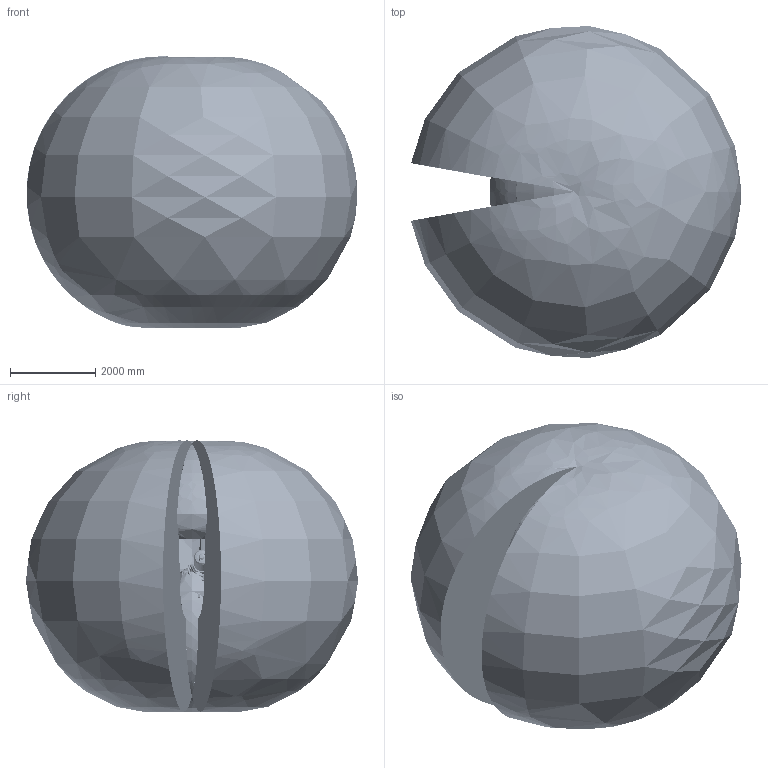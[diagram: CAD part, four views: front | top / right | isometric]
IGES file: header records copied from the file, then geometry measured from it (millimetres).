
Start section: SolidWorks IGES file using analytic representation for surfaces
Global section: file name: C:\Data\SAP_DOC\IRB6740_lightweight\6750S\IRB 6750S ASM\IRB6750S-LID-SW_185kg-390_OC_01_SW_J\IRB6750S-LID-SW_185kg-390_OC_01_IGES_J\IRB6750S-LID-SW_185kg-390_OC_01_ASM_CAD.igs; native system: SolidWorks 2024; preprocessor: SolidWorks 2024; author: SEJAOLS6; date: 260513.074016; units: millimetre
Bounding box: 7745.31 x 7773.77 x 6348.25 mm (x, y, z)
Surface area: 260032231.1 mm2 (no closed solid volume)
Topology: 0 solids, 0 shells, 10517 faces, 174111 edges, 173854 vertices
Faces by surface type: bspline 6048, revolution 4469
